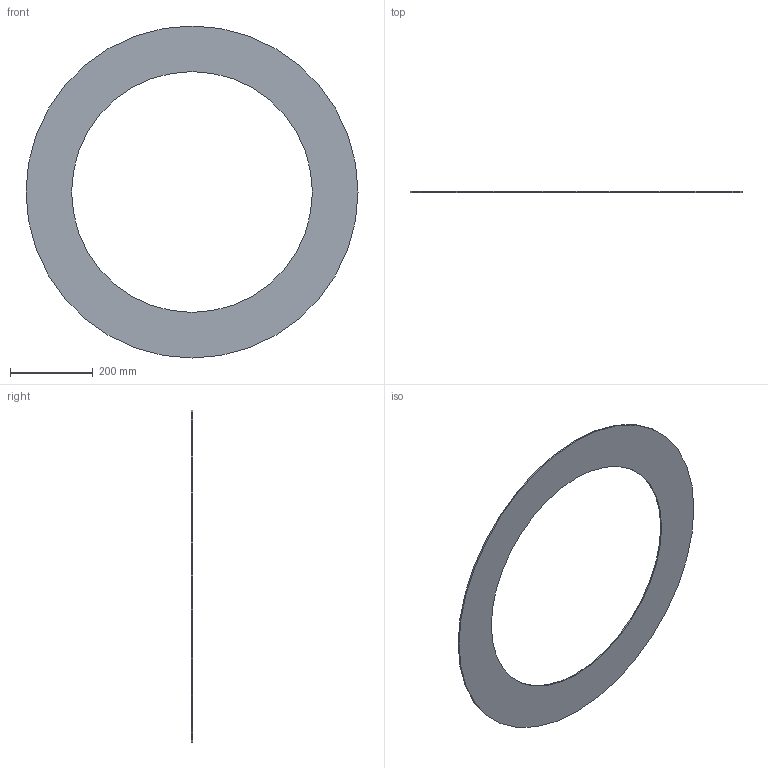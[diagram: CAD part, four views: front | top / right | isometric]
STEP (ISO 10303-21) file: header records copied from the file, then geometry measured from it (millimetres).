
FILE_DESCRIPTION(/* description */ ('Unknown'),/* implementation_level */ '2;1');
FILE_NAME(/* name */ 'GUA.710C',/* time_stamp */ '2021-04-01T14:30:25+02:00',/* author */ ('Unknown'),/* organization */ ('Unknown'),/* preprocessor_version */ 'ST-DEVELOPER v16.7',/* originating_system */ 'Solid Edge',/* authorisation */ 'Unknown');
FILE_SCHEMA (('AUTOMOTIVE_DESIGN {1 0 10303 214 3 1 1}'));
Length unit declared in the file: millimetre
Products named in the file (1): GUA.710C
Bounding box: 804 x 3 x 804 mm (x, y, z)
Volume: 722237.2 mm3; surface area: 494563.7 mm2
Topology: 1 solids, 1 shells, 4 faces, 6 edges, 4 vertices
Faces by surface type: cylinder 2, plane 2
Full cylindrical faces by diameter (mm): 583 x1, 804 x1
Entity records: 118 total; most frequent: DIRECTION 18, CARTESIAN_POINT 13, AXIS2_PLACEMENT_3D 9, ORIENTED_EDGE 8, EDGE_LOOP 8, FACE_BOUND 8, EDGE_CURVE 4, VERTEX_POINT 4
